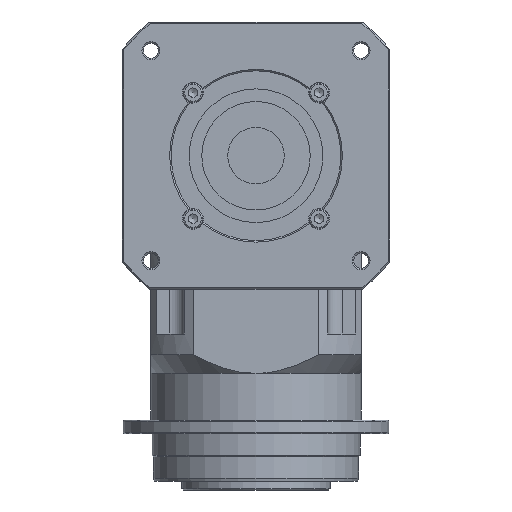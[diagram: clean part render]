
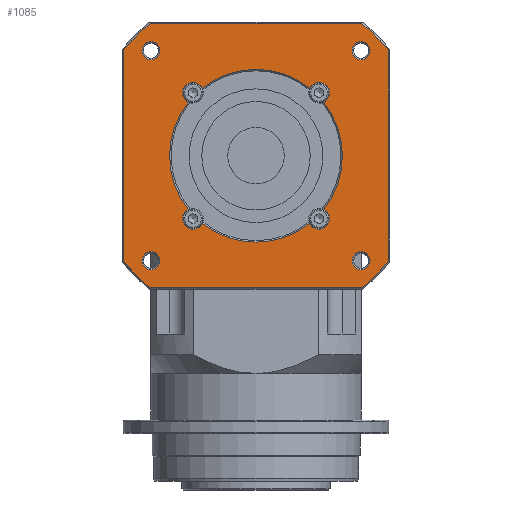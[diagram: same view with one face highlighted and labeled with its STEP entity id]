
A CAD part, front view. The second image highlights one B-rep face of the part: STEP entity #1085.
In plain terms, the highlighted planar face has unit normal (0, -1, 0).
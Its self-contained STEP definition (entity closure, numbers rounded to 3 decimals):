
#888=CARTESIAN_POINT('',(-70.711,-156.,289.658));
#889=VERTEX_POINT('',#888);
#890=CARTESIAN_POINT('',(-70.711,-156.,295.711));
#891=DIRECTION('',(0.0,-1.0,0.0));
#892=DIRECTION('',(0.0,0.0,1.0));
#893=AXIS2_PLACEMENT_3D('',#890,#891,#892);
#894=CIRCLE('',#893,6.053);
#895=EDGE_CURVE('',#889,#889,#894,.T.);
#900=CARTESIAN_POINT('',(0.,-156.,225.));
#901=DIRECTION('',(0.0,1.0,0.0));
#902=DIRECTION('',(0.0,0.0,1.0));
#903=AXIS2_PLACEMENT_3D('',#900,#901,#902);
#904=PLANE('',#903);
#905=CARTESIAN_POINT('',(-89.,-156.,153.761));
#906=VERTEX_POINT('',#905);
#907=CARTESIAN_POINT('',(-89.,-156.,296.239));
#908=VERTEX_POINT('',#907);
#909=CARTESIAN_POINT('',(-89.,-156.,153.761));
#910=DIRECTION('',(0.0,0.0,1.0));
#911=VECTOR('',#910,142.478);
#912=LINE('',#909,#911);
#913=EDGE_CURVE('',#906,#908,#912,.T.);
#914=ORIENTED_EDGE('',*,*,#913,.F.);
#915=CARTESIAN_POINT('',(-71.239,-156.,136.0));
#916=VERTEX_POINT('',#915);
#917=CARTESIAN_POINT('',(0.,-156.,225.));
#918=DIRECTION('',(0.0,1.0,0.0));
#919=DIRECTION('',(0.0,0.0,-1.0));
#920=AXIS2_PLACEMENT_3D('',#917,#918,#919);
#921=CIRCLE('',#920,114.0);
#922=EDGE_CURVE('',#916,#906,#921,.T.);
#923=ORIENTED_EDGE('',*,*,#922,.F.);
#924=CARTESIAN_POINT('',(71.239,-156.,136.));
#925=VERTEX_POINT('',#924);
#926=CARTESIAN_POINT('',(71.239,-156.,136.));
#927=DIRECTION('',(-1.0,0.0,0.0));
#928=VECTOR('',#927,142.478);
#929=LINE('',#926,#928);
#930=EDGE_CURVE('',#925,#916,#929,.T.);
#931=ORIENTED_EDGE('',*,*,#930,.F.);
#932=CARTESIAN_POINT('',(89.,-156.,153.761));
#933=VERTEX_POINT('',#932);
#934=CARTESIAN_POINT('',(0.,-156.,225.));
#935=DIRECTION('',(0.0,1.0,0.0));
#936=DIRECTION('',(0.0,0.0,-1.0));
#937=AXIS2_PLACEMENT_3D('',#934,#935,#936);
#938=CIRCLE('',#937,114.0);
#939=EDGE_CURVE('',#933,#925,#938,.T.);
#940=ORIENTED_EDGE('',*,*,#939,.F.);
#941=CARTESIAN_POINT('',(89.,-156.,296.239));
#942=VERTEX_POINT('',#941);
#943=CARTESIAN_POINT('',(89.,-156.,296.239));
#944=DIRECTION('',(0.0,0.0,-1.0));
#945=VECTOR('',#944,142.478);
#946=LINE('',#943,#945);
#947=EDGE_CURVE('',#942,#933,#946,.T.);
#948=ORIENTED_EDGE('',*,*,#947,.F.);
#949=CARTESIAN_POINT('',(71.239,-156.,314.));
#950=VERTEX_POINT('',#949);
#951=CARTESIAN_POINT('',(0.,-156.,225.));
#952=DIRECTION('',(0.0,1.0,0.0));
#953=DIRECTION('',(0.0,0.0,1.0));
#954=AXIS2_PLACEMENT_3D('',#951,#952,#953);
#955=CIRCLE('',#954,114.0);
#956=EDGE_CURVE('',#950,#942,#955,.T.);
#957=ORIENTED_EDGE('',*,*,#956,.F.);
#958=CARTESIAN_POINT('',(-71.239,-156.,314.0));
#959=VERTEX_POINT('',#958);
#960=CARTESIAN_POINT('',(-71.239,-156.,314.));
#961=DIRECTION('',(1.0,0.0,0.0));
#962=VECTOR('',#961,142.478);
#963=LINE('',#960,#962);
#964=EDGE_CURVE('',#959,#950,#963,.T.);
#965=ORIENTED_EDGE('',*,*,#964,.F.);
#966=CARTESIAN_POINT('',(0.,-156.,225.));
#967=DIRECTION('',(0.0,1.0,0.0));
#968=DIRECTION('',(0.0,0.0,1.0));
#969=AXIS2_PLACEMENT_3D('',#966,#967,#968);
#970=CIRCLE('',#969,114.0);
#971=EDGE_CURVE('',#908,#959,#970,.T.);
#972=ORIENTED_EDGE('',*,*,#971,.F.);
#973=EDGE_LOOP('',(#914,#923,#931,#940,#948,#957,#965,#972));
#974=FACE_OUTER_BOUND('',#973,.T.);
#975=CARTESIAN_POINT('',(-70.711,-156.,148.236));
#976=VERTEX_POINT('',#975);
#977=CARTESIAN_POINT('',(-70.711,-156.,154.289));
#978=DIRECTION('',(0.0,-1.0,0.0));
#979=DIRECTION('',(0.0,0.0,1.0));
#980=AXIS2_PLACEMENT_3D('',#977,#978,#979);
#981=CIRCLE('',#980,6.053);
#982=EDGE_CURVE('',#976,#976,#981,.T.);
#983=ORIENTED_EDGE('',*,*,#982,.F.);
#984=EDGE_LOOP('',(#983));
#985=FACE_BOUND('',#984,.T.);
#986=CARTESIAN_POINT('',(70.711,-156.,289.658));
#987=VERTEX_POINT('',#986);
#988=CARTESIAN_POINT('',(70.711,-156.,295.711));
#989=DIRECTION('',(0.0,-1.0,0.0));
#990=DIRECTION('',(0.0,0.0,1.0));
#991=AXIS2_PLACEMENT_3D('',#988,#989,#990);
#992=CIRCLE('',#991,6.053);
#993=EDGE_CURVE('',#987,#987,#992,.T.);
#994=ORIENTED_EDGE('',*,*,#993,.F.);
#995=EDGE_LOOP('',(#994));
#996=FACE_BOUND('',#995,.T.);
#997=CARTESIAN_POINT('',(-36.158,-156.,179.458));
#998=VERTEX_POINT('',#997);
#999=CARTESIAN_POINT('',(36.158,-156.,179.458));
#1000=VERTEX_POINT('',#999);
#1001=CARTESIAN_POINT('',(0.,-156.,225.));
#1002=DIRECTION('',(0.0,-1.0,0.0));
#1003=DIRECTION('',(0.0,0.0,-1.0));
#1004=AXIS2_PLACEMENT_3D('',#1001,#1002,#1003);
#1005=CIRCLE('',#1004,58.15);
#1006=EDGE_CURVE('',#998,#1000,#1005,.T.);
#1007=ORIENTED_EDGE('',*,*,#1006,.F.);
#1008=CARTESIAN_POINT('',(-45.542,-156.,188.842));
#1009=VERTEX_POINT('',#1008);
#1010=CARTESIAN_POINT('',(-42.426,-156.,182.574));
#1011=DIRECTION('',(0.0,1.0,0.0));
#1012=DIRECTION('',(0.0,0.0,-1.0));
#1013=AXIS2_PLACEMENT_3D('',#1010,#1011,#1012);
#1014=CIRCLE('',#1013,7.);
#1015=EDGE_CURVE('',#998,#1009,#1014,.T.);
#1016=ORIENTED_EDGE('',*,*,#1015,.T.);
#1017=CARTESIAN_POINT('',(-45.542,-156.,261.158));
#1018=VERTEX_POINT('',#1017);
#1019=CARTESIAN_POINT('',(0.,-156.,225.));
#1020=DIRECTION('',(0.0,-1.0,0.0));
#1021=DIRECTION('',(0.0,0.0,1.0));
#1022=AXIS2_PLACEMENT_3D('',#1019,#1020,#1021);
#1023=CIRCLE('',#1022,58.15);
#1024=EDGE_CURVE('',#1018,#1009,#1023,.T.);
#1025=ORIENTED_EDGE('',*,*,#1024,.F.);
#1026=CARTESIAN_POINT('',(-36.158,-156.,270.542));
#1027=VERTEX_POINT('',#1026);
#1028=CARTESIAN_POINT('',(-42.426,-156.,267.426));
#1029=DIRECTION('',(0.0,1.0,0.0));
#1030=DIRECTION('',(0.0,0.0,-1.0));
#1031=AXIS2_PLACEMENT_3D('',#1028,#1029,#1030);
#1032=CIRCLE('',#1031,7.);
#1033=EDGE_CURVE('',#1018,#1027,#1032,.T.);
#1034=ORIENTED_EDGE('',*,*,#1033,.T.);
#1035=CARTESIAN_POINT('',(36.158,-156.,270.542));
#1036=VERTEX_POINT('',#1035);
#1037=CARTESIAN_POINT('',(0.,-156.,225.));
#1038=DIRECTION('',(0.0,-1.0,0.0));
#1039=DIRECTION('',(0.0,0.0,1.0));
#1040=AXIS2_PLACEMENT_3D('',#1037,#1038,#1039);
#1041=CIRCLE('',#1040,58.15);
#1042=EDGE_CURVE('',#1036,#1027,#1041,.T.);
#1043=ORIENTED_EDGE('',*,*,#1042,.F.);
#1044=CARTESIAN_POINT('',(45.542,-156.,261.158));
#1045=VERTEX_POINT('',#1044);
#1046=CARTESIAN_POINT('',(42.426,-156.,267.426));
#1047=DIRECTION('',(0.0,1.0,0.0));
#1048=DIRECTION('',(0.0,0.0,-1.0));
#1049=AXIS2_PLACEMENT_3D('',#1046,#1047,#1048);
#1050=CIRCLE('',#1049,7.);
#1051=EDGE_CURVE('',#1036,#1045,#1050,.T.);
#1052=ORIENTED_EDGE('',*,*,#1051,.T.);
#1053=CARTESIAN_POINT('',(45.542,-156.,188.842));
#1054=VERTEX_POINT('',#1053);
#1055=CARTESIAN_POINT('',(0.,-156.,225.));
#1056=DIRECTION('',(0.0,-1.0,0.0));
#1057=DIRECTION('',(0.0,0.0,1.0));
#1058=AXIS2_PLACEMENT_3D('',#1055,#1056,#1057);
#1059=CIRCLE('',#1058,58.15);
#1060=EDGE_CURVE('',#1054,#1045,#1059,.T.);
#1061=ORIENTED_EDGE('',*,*,#1060,.F.);
#1062=CARTESIAN_POINT('',(42.426,-156.,182.574));
#1063=DIRECTION('',(0.0,1.0,0.0));
#1064=DIRECTION('',(0.0,0.0,-1.0));
#1065=AXIS2_PLACEMENT_3D('',#1062,#1063,#1064);
#1066=CIRCLE('',#1065,7.);
#1067=EDGE_CURVE('',#1054,#1000,#1066,.T.);
#1068=ORIENTED_EDGE('',*,*,#1067,.T.);
#1069=EDGE_LOOP('',(#1007,#1016,#1025,#1034,#1043,#1052,#1061,#1068));
#1070=FACE_BOUND('',#1069,.T.);
#1071=CARTESIAN_POINT('',(70.711,-156.,148.236));
#1072=VERTEX_POINT('',#1071);
#1073=CARTESIAN_POINT('',(70.711,-156.,154.289));
#1074=DIRECTION('',(0.0,-1.0,0.0));
#1075=DIRECTION('',(0.0,0.0,1.0));
#1076=AXIS2_PLACEMENT_3D('',#1073,#1074,#1075);
#1077=CIRCLE('',#1076,6.053);
#1078=EDGE_CURVE('',#1072,#1072,#1077,.T.);
#1079=ORIENTED_EDGE('',*,*,#1078,.F.);
#1080=EDGE_LOOP('',(#1079));
#1081=FACE_BOUND('',#1080,.T.);
#1082=ORIENTED_EDGE('',*,*,#895,.F.);
#1083=EDGE_LOOP('',(#1082));
#1084=FACE_BOUND('',#1083,.T.);
#1085=ADVANCED_FACE('',(#974,#985,#996,#1070,#1081,#1084),#904,.F.);
